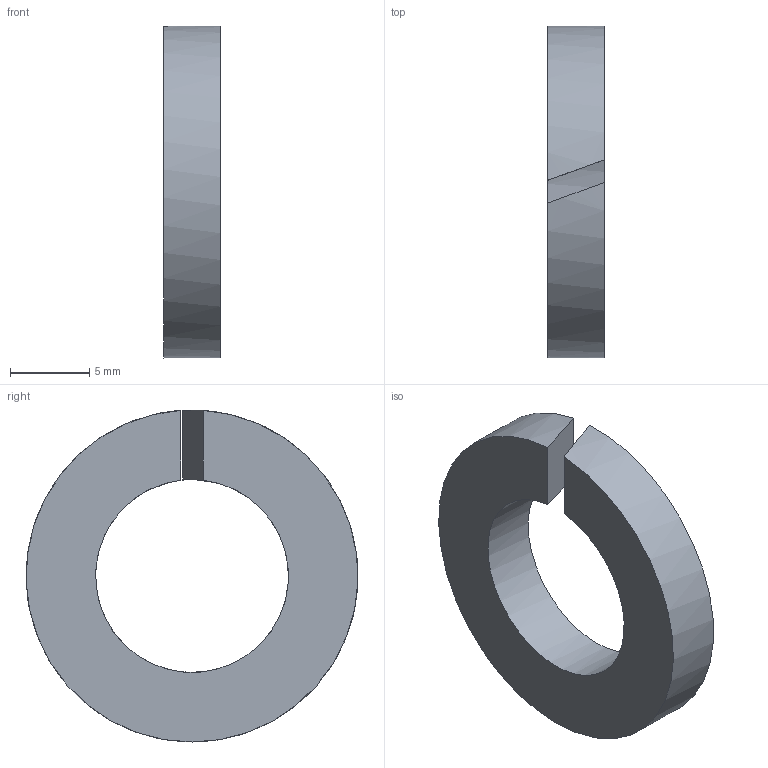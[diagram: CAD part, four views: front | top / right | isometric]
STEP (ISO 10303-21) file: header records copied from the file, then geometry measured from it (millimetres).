
FILE_DESCRIPTION(/* description */ ('스프링 잠금 와셔'),/* implementation_level */ '2;1');
FILE_NAME(/* name */ '',/* time_stamp */ '2026-06-02T17:08:32+09:00',/* author */ ('jhkim'),/* organization */ (''),/* preprocessor_version */ 'ST-DEVELOPER v20.1',/* originating_system */ 'Autodesk Inventor 2027',/* authorisation */ '');
FILE_SCHEMA (('AUTOMOTIVE_DESIGN { 1 0 10303 214 3 1 1 }'));
Length unit declared in the file: millimetre
Products named in the file (1): 스프링 와셔 M12
Bounding box: 3.6 x 20.99 x 21 mm (x, y, z)
Volume: 803.1 mm3; surface area: 845.2 mm2
Topology: 1 solids, 1 shells, 6 faces, 12 edges, 8 vertices
Faces by surface type: plane 4, cylinder 2
Entity records: 207 total; most frequent: DIRECTION 34, CARTESIAN_POINT 27, ORIENTED_EDGE 24, AXIS2_PLACEMENT_3D 15, EDGE_CURVE 12, VERTEX_POINT 8, FACE_OUTER_BOUND 6, EDGE_LOOP 6
